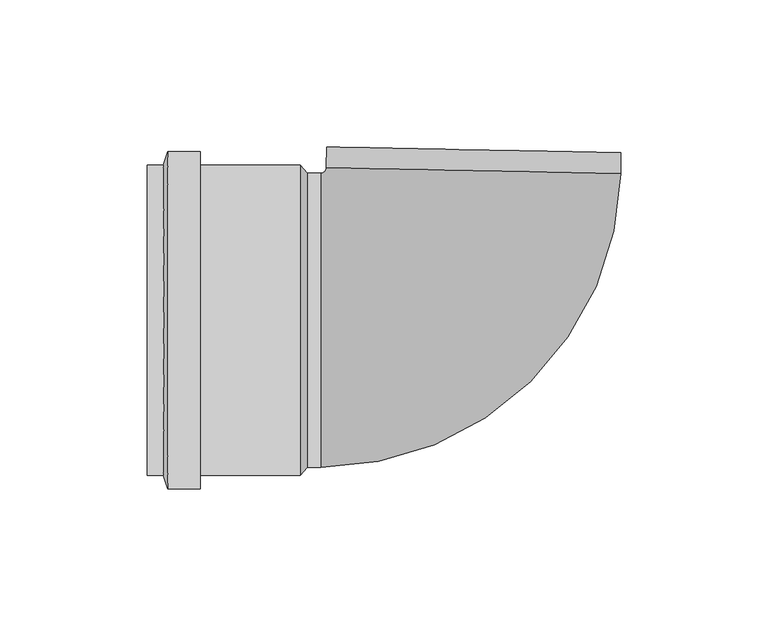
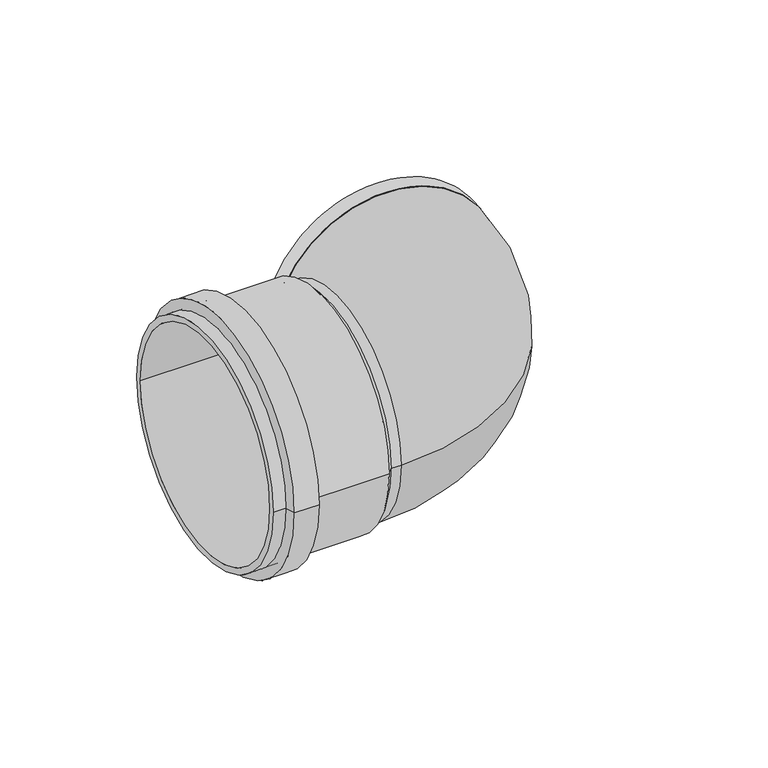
"""IFC4 building model written with IfcOpenShell, lengths in millimetres: pipe fitting geometry, Joelho 45_90 - Serie Normal - Esgoto : Joelho 45_90 - Serie Normal - Esgoto."""

from ifc_helpers import new_model, si_unit, point, frame, origin, origin_2d, place, context, project, spatial, polyline, circle_curve, ellipse_curve, trimmed, segment, composite_curve, outline, extrude, source, transform, mapped, element, save
from ifc_brep_helpers import plane_surface, cylinder_surface, revolved_surface, advanced_brep


def pipe_fitting_ddecea94(model_context):
    return source(origin(), model_context, "Body", "SolidModel", [
        extrude(outline(composite_curve([segment(trimmed(circle_curve(origin_2d(), 50.0), [point((0.0, 50.0))], [point((0.0, -49.9999999))], False, "CARTESIAN"), True, "CONTINUOUS"), segment(trimmed(circle_curve(origin_2d(), 50.0), [point((0.0, -49.9999999))], [point((0.0, 50.0))], False, "CARTESIAN"), True, "CONTINUOUS")], self_intersect=False)), frame((1.0190315, 50.9603877, 0.0), z_axis=(0.01999254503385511, 0.9998001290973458, 0.0), x_axis=(0.0, 0.0, 1.0)), (0.0, 0.0, 1.0), 7.0),
        advanced_brep(
        [(-109.9705752, 52.85, 0.0), (-109.9705752, -52.85, 0.0), (-109.9705752, 50.0, 0.0), (-109.9705752, -50.0, 0.0), (-57.9705752, -50.0, 0.0), (-57.9705752, 50.0, 0.0), (-57.9705752, -52.85, 0.0), (-57.9705752, 52.85, 0.0), (-55.4705752, -50.0, 0.0), (-55.4705752, 50.0, 0.0), (-50.9705752, 50.0, 0.0), (-50.9705752, -50.0, 0.0), (-50.9705752, 0.0, 50.0), (-50.9705752, 0.0, -50.0), (51.009038, 49.9607604, 0.0), (-48.9709749, 51.9600149, 0.0)],
        [
            (0, 1, circle_curve(frame((-109.9705752, 0.0, 0.0), z_axis=(-1.0, 0.0, 0.0), x_axis=(0.0, -1.0, 0.0)), 52.85)),
            (1, 0, circle_curve(frame((-109.9705752, 0.0, 0.0), z_axis=(-1.0, 0.0, 0.0), x_axis=(0.0, -1.0, 0.0)), 52.85)),
            (2, 3, circle_curve(frame((-109.9705752, 0.0, 0.0), z_axis=(1.0, 0.0, 0.0), x_axis=(0.0, -1.0, 0.0)), 50.0)),
            (3, 2, circle_curve(frame((-109.9705752, 0.0, 0.0), z_axis=(1.0, 0.0, 0.0), x_axis=(0.0, -1.0, 0.0)), 50.0)),
            (3, 4),
            (4, 5, circle_curve(frame((-57.9705752, 0.0, 0.0), z_axis=(1.0, 0.0, 0.0), x_axis=(0.0, -1.0, 0.0)), 50.0)),
            (5, 2),
            (5, 4, circle_curve(frame((-57.9705752, 0.0, 0.0), z_axis=(1.0, 0.0, 0.0), x_axis=(0.0, -1.0, 0.0)), 50.0)),
            (1, 6),
            (6, 7, circle_curve(frame((-57.9705752, 0.0, 0.0), z_axis=(-1.0, 0.0, 0.0), x_axis=(0.0, -1.0, 0.0)), 52.85)),
            (7, 0),
            (7, 6, circle_curve(frame((-57.9705752, 0.0, 0.0), z_axis=(-1.0, 0.0, 0.0), x_axis=(0.0, -1.0, 0.0)), 52.85)),
            (8, 6),
            (7, 9),
            (9, 8, circle_curve(frame((-55.4705752, 0.0, 0.0), z_axis=(-1.0, 0.0, 0.0), x_axis=(0.0, 1.0, 0.0)), 50.0)),
            (8, 9, circle_curve(frame((-55.4705752, 0.0, 0.0), z_axis=(-1.0, 0.0, 0.0), x_axis=(0.0, -1.0, 0.0)), 50.0)),
            (10, 9),
            (8, 11),
            (11, 12, circle_curve(frame((-50.9705752, 0.0, 0.0), z_axis=(-1.0, 0.0, 0.0), x_axis=(0.0, -1.0, 0.0)), 50.0)),
            (12, 10, circle_curve(frame((-50.9705752, 0.0, 0.0), z_axis=(-1.0, 0.0, 0.0), x_axis=(0.0, -1.0, 0.0)), 50.0)),
            (10, 13, circle_curve(frame((-50.9705752, 0.0, 0.0), z_axis=(-1.0, 0.0, 0.0), x_axis=(0.0, -1.0, 0.0)), 50.0)),
            (13, 11, circle_curve(frame((-50.9705752, 0.0, 0.0), z_axis=(-1.0, 0.0, 0.0), x_axis=(0.0, -1.0, 0.0)), 50.0)),
            (14, 15, circle_curve(frame((1.0190315, 50.9603877, 0.0), z_axis=(0.019992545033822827, 0.9998001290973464, 0.0), x_axis=(-0.9998001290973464, 0.019992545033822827, 0.0)), 50.0)),
            (15, 14, circle_curve(frame((1.0190315, 50.9603877, 0.0), z_axis=(0.019992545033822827, 0.9998001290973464, 0.0), x_axis=(-0.9998001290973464, 0.019992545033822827, 0.0)), 50.0)),
            (15, 10, circle_curve(frame((-50.9705752, 52.0, 0.0), z_axis=(0.0, 0.0, -1.0), x_axis=(0.0, -1.0, 0.0)), 2.0)),
            (11, 14, circle_curve(frame((-50.9705752, 52.0, 0.0), z_axis=(0.0, 0.0, 1.0), x_axis=(0.0, -1.0, 0.0)), 102.0)),
        ],
        [
            plane_surface(frame((-109.9705752, 0.0, 0.0), z_axis=(-1.0, 0.0, 0.0), x_axis=(0.0, 0.0, 1.0))),
            revolved_surface(polyline([(-109.9705752, -50.0, 0.0), (-57.9705752, -50.0, 0.0)]), (-57.9705752, 0.0, 0.0), (-1.0, 0.0, 0.0)),
            cylinder_surface(frame((-57.9705752, 0.0, 0.0), z_axis=(1.0, 0.0, 0.0), x_axis=(0.0, -1.0, 0.0)), 52.85),
            plane_surface(frame((-57.9705752, 0.0, 0.0), z_axis=(-1.0, 0.0, 0.0), x_axis=(0.0, 0.0, -1.0))),
            revolved_surface(polyline([(-55.4705752, -49.99999999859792, 0.0), (-57.9705752, -52.85, 0.0)]), (-11.6109261, 0.0, 0.0), (-1.0, 0.0, 0.0)),
            cylinder_surface(frame((-50.9705752, 0.0, 0.0), z_axis=(1.0, 0.0, 0.0), x_axis=(0.0, -1.0, 0.0)), 50.0),
            plane_surface(frame((1.0190315, 50.9603877, 0.0), z_axis=(0.019992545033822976, 0.9998001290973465, 0.0), x_axis=(0.0, 0.0, 1.0))),
            revolved_surface(trimmed(ellipse_curve(frame((-50.9705752, 0.0, 0.0), z_axis=(-1.0, 0.0, 0.0), x_axis=(0.0, 1.0, 0.0)), 50.0, 50.0), [point((-50.9705752, -50.0, 0.0))], [point((-50.9705752, 50.0, 0.0))], True, "CARTESIAN"), (-50.9705752, 52.0, 0.0), (0.0, 0.0, 1.0)),
            revolved_surface(trimmed(ellipse_curve(frame((-50.9705752, 0.0, 0.0), z_axis=(-1.0, 0.0, 0.0), x_axis=(0.0, 1.0, 0.0)), 50.0, 50.0), [point((-50.9705752, 50.0, 0.0))], [point((-50.9705752, -50.0, 0.0))], True, "CARTESIAN"), (-50.9705752, 52.0, 0.0), (0.0, 0.0, 1.0)),
        ],
        [
            (0, [[1, 2], [3, 4]]),
            (1, [[-4, 5, 6, 7]]),
            (1, [[-3, -7, 8, -5]]),
            (2, [[-2, 9, 10, 11]]),
            (2, [[-1, -11, 12, -9]]),
            (3, [[-6, -8]]),
            (4, [[13, -12, 14, 15]]),
            (4, [[-13, 16, -14, -10]]),
            (5, [[17, -16, 18, 19, 20]]),
            (5, [[-17, 21, 22, -18, -15]]),
            (6, [[23, 24]]),
            (7, [[-24, 25, -20, -19, 26]]),
            (8, [[-23, -26, -22, -21, -25]]),
        ],
    ),
        advanced_brep(
        [(-91.9705752, 57.3, 0.0), (-91.9705752, -57.3, 0.0), (-91.9705752, 52.85, 0.0), (-91.9705752, -52.85, 0.0), (-102.9705752, 52.85, 0.0), (-102.9705752, -52.85, 0.0), (-102.9705752, 57.3, 0.0), (-102.9705752, -57.3, 0.0), (-104.4705752, 52.85, 0.0), (-104.4705752, -52.85, 0.0)],
        [
            (0, 1, circle_curve(frame((-91.9705752, 0.0, 0.0), z_axis=(1.0, 0.0, 0.0), x_axis=(0.0, -1.0, 0.0)), 57.3)),
            (1, 0, circle_curve(frame((-91.9705752, 0.0, 0.0), z_axis=(1.0, 0.0, 0.0), x_axis=(0.0, -1.0, 0.0)), 57.3)),
            (2, 3, circle_curve(frame((-91.9705752, 0.0, 0.0), z_axis=(-1.0, 0.0, 0.0), x_axis=(0.0, -1.0, 0.0)), 52.85)),
            (3, 2, circle_curve(frame((-91.9705752, 0.0, 0.0), z_axis=(-1.0, 0.0, 0.0), x_axis=(0.0, -1.0, 0.0)), 52.85)),
            (2, 4),
            (4, 5, circle_curve(frame((-102.9705752, 0.0, 0.0), z_axis=(-1.0, 0.0, 0.0), x_axis=(0.0, -1.0, 0.0)), 52.85)),
            (5, 3),
            (5, 4, circle_curve(frame((-102.9705752, 0.0, 0.0), z_axis=(-1.0, 0.0, 0.0), x_axis=(0.0, -1.0, 0.0)), 52.85)),
            (0, 6),
            (6, 7, circle_curve(frame((-102.9705752, 0.0, 0.0), z_axis=(1.0, 0.0, 0.0), x_axis=(0.0, -1.0, 0.0)), 57.3)),
            (7, 1),
            (7, 6, circle_curve(frame((-102.9705752, 0.0, 0.0), z_axis=(1.0, 0.0, 0.0), x_axis=(0.0, -1.0, 0.0)), 57.3)),
            (4, 8),
            (8, 9, circle_curve(frame((-104.4705752, 0.0, 0.0), z_axis=(-1.0, 0.0, 0.0), x_axis=(0.0, -1.0, 0.0)), 52.85)),
            (9, 5),
            (9, 8, circle_curve(frame((-104.4705752, 0.0, 0.0), z_axis=(-1.0, 0.0, 0.0), x_axis=(0.0, -1.0, 0.0)), 52.85)),
            (7, 9),
            (8, 6),
        ],
        [
            plane_surface(frame((-91.9705752, 0.0, 0.0), z_axis=(1.0, 0.0, 0.0), x_axis=(0.0, 0.0, 1.0))),
            revolved_surface(polyline([(-102.9705752, -52.85, 0.0), (-91.9705752, -52.85, 0.0)]), (-91.9705752, 0.0, 0.0), (-1.0, 0.0, 0.0)),
            cylinder_surface(frame((-91.9705752, 0.0, 0.0), z_axis=(1.0, 0.0, 0.0), x_axis=(0.0, -1.0, 0.0)), 57.3),
            revolved_surface(polyline([(-102.9705752, -52.85, 0.0), (-104.4705752, -52.85, 0.0)]), (-102.9705752, 0.0, 0.0), (1.0, 0.0, 0.0)),
            revolved_surface(polyline([(-104.4705752, -52.84999999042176, 0.0), (-102.9705752, -57.3, 0.0)]), (-122.2851819, 0.0, 0.0), (1.0, 0.0, 0.0)),
        ],
        [
            (0, [[1, 2], [3, 4]]),
            (1, [[-3, 5, 6, 7]]),
            (1, [[-4, -7, 8, -5]]),
            (2, [[-1, 9, 10, 11]]),
            (2, [[-2, -11, 12, -9]]),
            (3, [[13, 14, 15, -6]]),
            (3, [[-13, -8, -15, 16]]),
            (4, [[17, -14, 18, -12]]),
            (4, [[-17, -10, -18, -16]]),
        ],
    ),
    ])


if __name__ == "__main__":
    model = new_model("IFC4")
    model_context = context("Model", 3, world=origin())
    ifc_project = project(units=[si_unit("LENGTHUNIT", "METRE", prefix="MILLI")], contexts=[model_context])
    site = spatial("IfcSite", under=ifc_project)
    building = spatial("IfcBuilding", under=site)
    placement = place(None, origin())
    pipe_fitting_shape = pipe_fitting_ddecea94(model_context)
    element("IfcPipeFitting", 1, ObjectType="Joelho 45_90 - Serie Normal - Esgoto : Joelho 45_90 - Serie Normal - Esgoto", at=placement, inside=building, context=model_context, shape_type="MappedRepresentation", body=[
        mapped(pipe_fitting_shape, transform((0.0, 0.0, 0.0), x_axis=(1.0, 0.0, 0.0), y_axis=(0.0, 1.0, 0.0), z_axis=(0.0, 0.0, 1.0))),
    ])
    save(model, "model.ifc")
